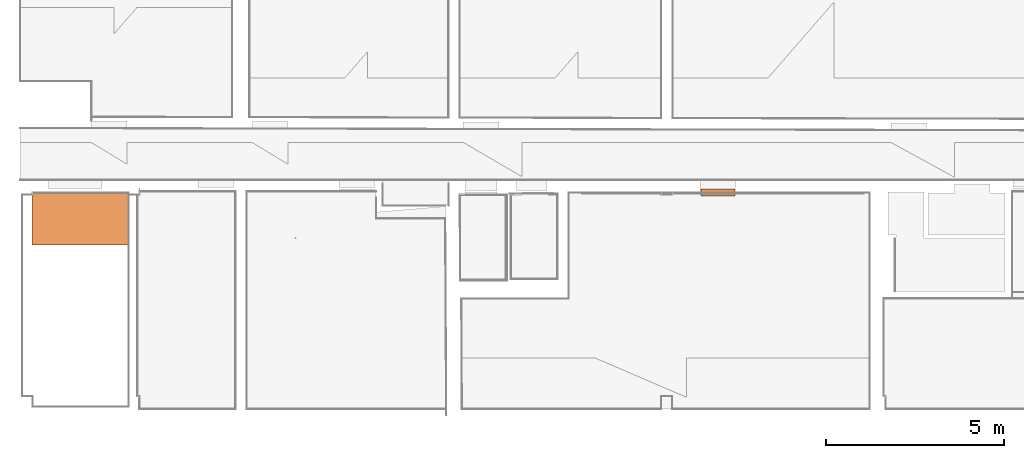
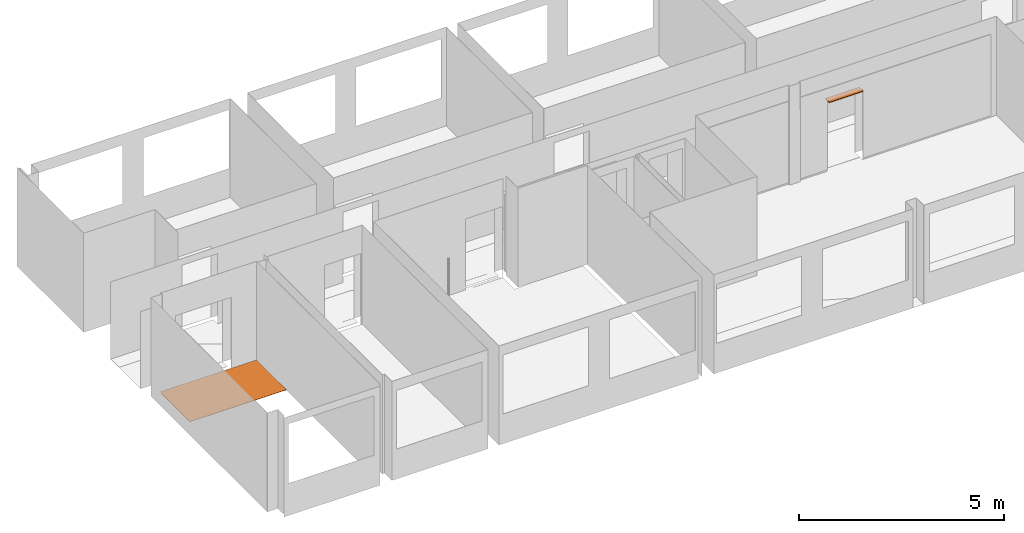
# One storey, part 16 of 16: 2 proxies.
"""IFC2X3 building model written with IfcOpenShell, lengths in millimetres."""

from ifc_helpers import new_model, entity, si_unit, converted_unit, derived_unit, money_unit, direction, frame, origin_with_axes, place, context, subcontext, project, spatial, polyline, outline, extrude, material, type_object, element, save


model = new_model("IFC2X3")

# Units and contexts
model_context = context("Model", 3, precision=0.01, world=origin_with_axes(), true_north=direction((0.0, 1.0)))
body_context = subcontext(model_context, "Body", "Model", "MODEL_VIEW")
ifc_project = project(units=[si_unit("LENGTHUNIT", "METRE", prefix="MILLI"), si_unit("AREAUNIT", "SQUARE_METRE"), si_unit("VOLUMEUNIT", "CUBIC_METRE"), converted_unit("PLANEANGLEUNIT", "DEGREE", entity("IfcPlaneAngleMeasure", 0.0174532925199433), si_unit("PLANEANGLEUNIT", "RADIAN"), dimensions=[0, 0, 0, 0, 0, 0, 0]), money_unit("EUR"), converted_unit("TIMEUNIT", "Year", entity("IfcTimeMeasure", 31556926.0), si_unit("TIMEUNIT", "SECOND"), dimensions=[0, 0, 1, 0, 0, 0, 0]), si_unit("MASSUNIT", "GRAM", prefix="KILO"), si_unit("THERMODYNAMICTEMPERATUREUNIT", "DEGREE_CELSIUS"), si_unit("LUMINOUSINTENSITYUNIT", "LUMEN"), si_unit("ENERGYUNIT", "JOULE", prefix="MEGA"), derived_unit("THERMALCONDUCTANCEUNIT", [(si_unit("POWERUNIT", "WATT"), 1), (si_unit("LENGTHUNIT", "METRE"), -1), (si_unit("THERMODYNAMICTEMPERATUREUNIT", "KELVIN"), -1)]), derived_unit("SPECIFICHEATCAPACITYUNIT", [(si_unit("ENERGYUNIT", "JOULE"), 1), (si_unit("MASSUNIT", "GRAM", prefix="KILO"), -1), (si_unit("THERMODYNAMICTEMPERATUREUNIT", "KELVIN"), -1)]), derived_unit("MASSDENSITYUNIT", [(si_unit("MASSUNIT", "GRAM", prefix="KILO"), 1), (si_unit("VOLUMEUNIT", "CUBIC_METRE"), -1)])], contexts=[model_context])

# Site, building, storey
site_placement = place(None, origin_with_axes())
site = spatial("IfcSite", under=ifc_project, at=site_placement, Name="Paldiski mnt 245/1, Tallinn, Harjumaa", CompositionType="COMPLEX")
building_placement = place(site_placement, origin_with_axes())
building = spatial("IfcBuilding", under=site, at=building_placement, Name="RKAS Hoone üldnimetus (kasutust iseloomustav) -> IFC Project Manager -> SOLIBRI", CompositionType="ELEMENT")
storey_placement = place(building_placement, frame((0.0, 0.0, 3300.0), z_axis=(0.0, 0.0, 1.0), x_axis=(1.0, 0.0, 0.0)))
storey = spatial("IfcBuildingStorey", under=building, at=storey_placement, Name="Teine korrus", CompositionType="ELEMENT", Elevation=3300.0)

# Proxies
ifc_material_1 = material(Name="SA- PM-4 porivaip")
building_element_proxy_type_1 = type_object("IfcBuildingElementProxyType", Name="SA- PM-4 porivaip 20", PredefinedType="NOTDEFINED")
proxy_1_placement = place(storey_placement, frame((-27543.73518934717, -6511.88209128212, 2080.000000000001), z_axis=(0.0, 0.0, 1.0), x_axis=(1.0, 0.0, 0.0)))
element("IfcBuildingElementProxy", 1, at=proxy_1_placement, inside=storey, type_object=building_element_proxy_type_1, material=ifc_material_1, Name="PM-4", context=body_context, shape_type="SweptSolid", body=[
    extrude(outline(polyline([(0.0, 0.0), (0.0, 196.7980032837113), (-960.1108053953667, 196.7980032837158), (-960.1108053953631, 0.0), (0.0, 0.0)])), origin_with_axes(), (0.0, 0.0, 1.0), 20.0),
])
ifc_material_2 = material(Name="SA- PM-7 plaat 15x15")
building_element_proxy_type_2 = type_object("IfcBuildingElementProxyType", Name="SA- PM-7 plaat 15x15 8", PredefinedType="NOTDEFINED")
proxy_2_placement = place(storey_placement, frame((-44589.99999966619, -7890.50085288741, 0.0), z_axis=(0.0, 0.0, 1.0), x_axis=(1.0, 0.0, 0.0)))
element("IfcBuildingElementProxy", 2, at=proxy_2_placement, inside=storey, type_object=building_element_proxy_type_2, material=ifc_material_2, Name="PM-7", context=body_context, shape_type="SweptSolid", body=[
    extrude(outline(polyline([(0.0, 0.0), (1.707977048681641e-05, 1467.416831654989), (-2699.999976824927, 1467.416869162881), (-2700.000008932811, 1410.5008656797), (-2720.000021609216, 1410.500865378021), (-2720.000000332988, -2.597882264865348e-05), (0.0, 0.0)])), origin_with_axes(), (0.0, 0.0, 1.0), 8.0),
])

save(model, "model.ifc")
